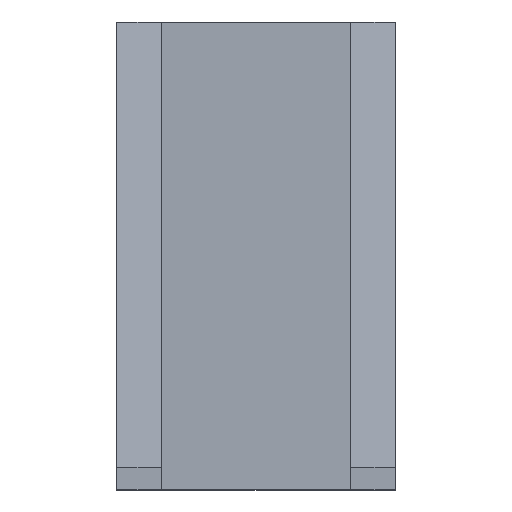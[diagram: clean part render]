
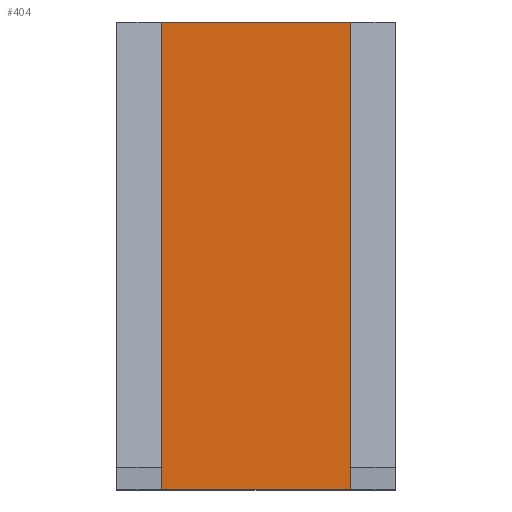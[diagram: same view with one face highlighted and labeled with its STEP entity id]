
A CAD part, top view. The second image highlights one B-rep face of the part: STEP entity #404.
In plain terms, the highlighted planar face has unit normal (0, 0, 1).
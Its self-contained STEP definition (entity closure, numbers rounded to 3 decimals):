
#22=LINE('',#606,#52);
#32=LINE('',#651,#62);
#38=LINE('',#673,#68);
#39=LINE('',#674,#69);
#52=VECTOR('',#486,84.);
#62=VECTOR('',#534,84.);
#68=VECTOR('',#560,34.);
#69=VECTOR('',#561,34.);
#82=PLANE('',#450);
#134=FACE_OUTER_BOUND('',#170,.T.);
#170=EDGE_LOOP('',(#336,#337,#338,#339));
#209=VERTEX_POINT('',#604);
#210=VERTEX_POINT('',#605);
#225=VERTEX_POINT('',#649);
#226=VERTEX_POINT('',#650);
#246=EDGE_CURVE('',#209,#210,#22,.T.);
#264=EDGE_CURVE('',#225,#226,#32,.T.);
#274=EDGE_CURVE('',#225,#210,#38,.T.);
#275=EDGE_CURVE('',#226,#209,#39,.T.);
#336=ORIENTED_EDGE('',*,*,#246,.T.);
#337=ORIENTED_EDGE('',*,*,#274,.F.);
#338=ORIENTED_EDGE('',*,*,#264,.T.);
#339=ORIENTED_EDGE('',*,*,#275,.T.);
#404=ADVANCED_FACE('',(#134),#82,.T.);
#450=AXIS2_PLACEMENT_3D('',#672,#558,#559);
#486=DIRECTION('',(0.,1.,0.));
#534=DIRECTION('',(0.,-1.,0.));
#558=DIRECTION('center_axis',(0.,0.,1.));
#559=DIRECTION('ref_axis',(1.,0.,0.));
#560=DIRECTION('',(1.,0.,0.));
#561=DIRECTION('',(1.,0.,0.));
#604=CARTESIAN_POINT('',(17.,0.,4.));
#605=CARTESIAN_POINT('',(17.,84.,4.));
#606=CARTESIAN_POINT('',(17.,19.424,4.));
#649=CARTESIAN_POINT('',(-17.,84.,4.));
#650=CARTESIAN_POINT('',(-17.,0.,4.));
#651=CARTESIAN_POINT('',(-17.,19.424,4.));
#672=CARTESIAN_POINT('Origin',(-25.,0.,4.));
#673=CARTESIAN_POINT('',(-25.,84.,4.));
#674=CARTESIAN_POINT('',(-25.,0.,4.));
